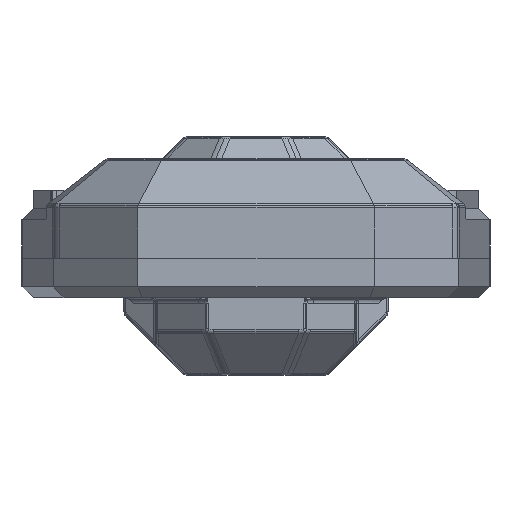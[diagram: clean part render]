
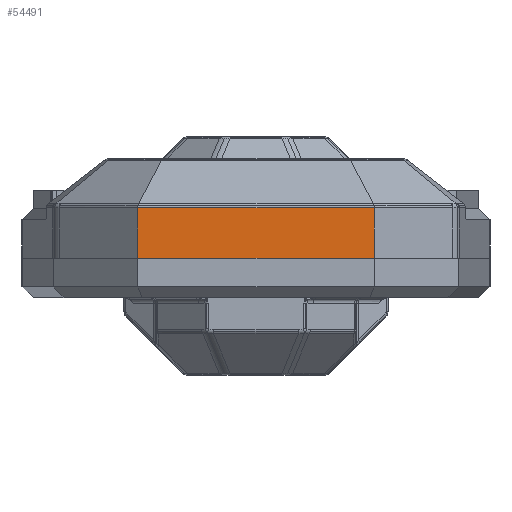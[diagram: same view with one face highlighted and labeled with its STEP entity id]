
A CAD part, left-side view. The second image highlights one B-rep face of the part: STEP entity #54491.
In plain terms, the highlighted planar face has unit normal (-1, 0, 0).
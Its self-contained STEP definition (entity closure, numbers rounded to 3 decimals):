
#3268 = ORIENTED_EDGE ( 'NONE', *, *, #104963, .F. ) ;
#4472 = PLANE ( 'NONE',  #64947 ) ;
#5528 = EDGE_CURVE ( 'NONE', #36732, #144186, #99949, .T. ) ;
#5809 = LINE ( 'NONE', #139300, #110512 ) ;
#15199 = CARTESIAN_POINT ( 'NONE',  ( -111.6, -10.679, 4.696 ) ) ;
#16390 = EDGE_CURVE ( 'NONE', #36732, #133696, #126592, .T. ) ;
#17487 = DIRECTION ( 'NONE',  ( -1., 0., 0. ) ) ;
#17716 = CARTESIAN_POINT ( 'NONE',  ( -111.6, -10.98, 4.696 ) ) ;
#29647 = VECTOR ( 'NONE', #116535, 1000. ) ;
#35449 = CARTESIAN_POINT ( 'NONE',  ( -111.6, 0., 0. ) ) ;
#36732 = VERTEX_POINT ( 'NONE', #115295 ) ;
#38472 = LINE ( 'NONE', #15199, #29647 ) ;
#42693 = VERTEX_POINT ( 'NONE', #135158 ) ;
#46698 = EDGE_LOOP ( 'NONE', ( #106168, #3268, #133009, #48574 ) ) ;
#48574 = ORIENTED_EDGE ( 'NONE', *, *, #5528, .T. ) ;
#48825 = CARTESIAN_POINT ( 'NONE',  ( -111.6, 10.98, 0. ) ) ;
#49435 = DIRECTION ( 'NONE',  ( 0., 0., 1. ) ) ;
#50571 = EDGE_CURVE ( 'NONE', #144186, #42693, #38472, .T. ) ;
#54491 = ADVANCED_FACE ( 'NONE', ( #81712 ), #4472, .T. ) ;
#64947 = AXIS2_PLACEMENT_3D ( 'NONE', #48825, #17487, #93351 ) ;
#69211 = DIRECTION ( 'NONE',  ( 0., 0., 1. ) ) ;
#81712 = FACE_OUTER_BOUND ( 'NONE', #46698, .T. ) ;
#88950 = CARTESIAN_POINT ( 'NONE',  ( -111.6, 10.98, 0. ) ) ;
#90422 = CARTESIAN_POINT ( 'NONE',  ( -111.6, -10.98, 0. ) ) ;
#93351 = DIRECTION ( 'NONE',  ( 0., 0., 1. ) ) ;
#99934 = VECTOR ( 'NONE', #135458, 1000. ) ;
#99949 = LINE ( 'NONE', #90422, #143675 ) ;
#104963 = EDGE_CURVE ( 'NONE', #133696, #42693, #5809, .T. ) ;
#106168 = ORIENTED_EDGE ( 'NONE', *, *, #50571, .T. ) ;
#110512 = VECTOR ( 'NONE', #49435, 1000. ) ;
#115295 = CARTESIAN_POINT ( 'NONE',  ( -111.6, -10.98, 0. ) ) ;
#116535 = DIRECTION ( 'NONE',  ( 0., 1., 0. ) ) ;
#126592 = LINE ( 'NONE', #35449, #99934 ) ;
#133009 = ORIENTED_EDGE ( 'NONE', *, *, #16390, .F. ) ;
#133696 = VERTEX_POINT ( 'NONE', #88950 ) ;
#135158 = CARTESIAN_POINT ( 'NONE',  ( -111.6, 10.98, 4.696 ) ) ;
#135458 = DIRECTION ( 'NONE',  ( 0., 1., 0. ) ) ;
#139300 = CARTESIAN_POINT ( 'NONE',  ( -111.6, 10.98, 0. ) ) ;
#143675 = VECTOR ( 'NONE', #69211, 1000. ) ;
#144186 = VERTEX_POINT ( 'NONE', #17716 ) ;
